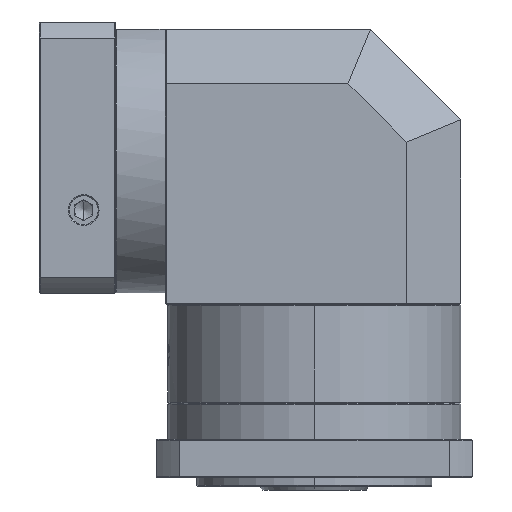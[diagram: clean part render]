
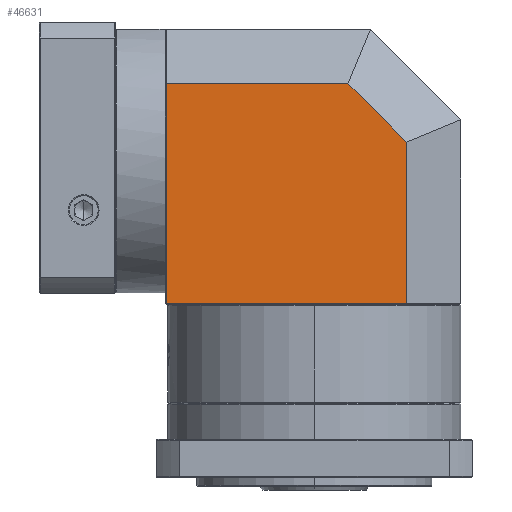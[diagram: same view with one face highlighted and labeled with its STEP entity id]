
A CAD part, left-side view. The second image highlights one B-rep face of the part: STEP entity #46631.
In plain terms, the highlighted planar face has unit normal (-1, 0, 0).
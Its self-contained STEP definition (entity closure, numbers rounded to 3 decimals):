
#117 = VECTOR ( 'NONE', #13070, 1000. ) ;
#1790 = AXIS2_PLACEMENT_3D ( 'NONE', #94318, #33925, #13625 ) ;
#3924 = DIRECTION ( 'NONE',  ( 0., 1., 0. ) ) ;
#13070 = DIRECTION ( 'NONE',  ( 0., 0., -1. ) ) ;
#13625 = DIRECTION ( 'NONE',  ( 0., 0., -1. ) ) ;
#14963 = CARTESIAN_POINT ( 'NONE',  ( -112.461, 17.589, -29.488 ) ) ;
#26580 = CARTESIAN_POINT ( 'NONE',  ( -112.461, 17.589, -118.762 ) ) ;
#31080 = LINE ( 'NONE', #85092, #68927 ) ;
#33925 = DIRECTION ( 'NONE',  ( -1., 0., 0. ) ) ;
#37858 = DIRECTION ( 'NONE',  ( 0., 1., 0. ) ) ;
#44449 = CARTESIAN_POINT ( 'NONE',  ( -112.461, 17.589, -43.162 ) ) ;
#46631 = ADVANCED_FACE ( 'NONE', ( #74987 ), #111112, .T. ) ;
#52588 = VECTOR ( 'NONE', #3924, 1000. ) ;
#56576 = VERTEX_POINT ( 'NONE', #109973 ) ;
#57858 = EDGE_CURVE ( 'NONE', #56576, #91560, #89488, .T. ) ;
#60229 = CARTESIAN_POINT ( 'NONE',  ( -112.461, 150.589, -43.162 ) ) ;
#61632 = VERTEX_POINT ( 'NONE', #26580 ) ;
#62337 = EDGE_LOOP ( 'NONE', ( #72814, #104753, #93554, #77146, #82964 ) ) ;
#63680 = VERTEX_POINT ( 'NONE', #14963 ) ;
#68927 = VECTOR ( 'NONE', #124237, 1000. ) ;
#70822 = VERTEX_POINT ( 'NONE', #75561 ) ;
#71919 = LINE ( 'NONE', #76646, #125518 ) ;
#72814 = ORIENTED_EDGE ( 'NONE', *, *, #57858, .T. ) ;
#74987 = FACE_OUTER_BOUND ( 'NONE', #62337, .T. ) ;
#75561 = CARTESIAN_POINT ( 'NONE',  ( -112.461, 50.015, 2.938 ) ) ;
#76646 = CARTESIAN_POINT ( 'NONE',  ( -112.461, 69.339, 2.938 ) ) ;
#77146 = ORIENTED_EDGE ( 'NONE', *, *, #115391, .T. ) ;
#80639 = LINE ( 'NONE', #44449, #117 ) ;
#82964 = ORIENTED_EDGE ( 'NONE', *, *, #87958, .T. ) ;
#83797 = CARTESIAN_POINT ( 'NONE',  ( -112.461, 69.339, -118.762 ) ) ;
#85092 = CARTESIAN_POINT ( 'NONE',  ( -112.461, 17.589, -29.488 ) ) ;
#86292 = VECTOR ( 'NONE', #130200, 1000. ) ;
#87958 = EDGE_CURVE ( 'NONE', #70822, #56576, #71919, .T. ) ;
#89488 = LINE ( 'NONE', #60229, #86292 ) ;
#91560 = VERTEX_POINT ( 'NONE', #113050 ) ;
#93554 = ORIENTED_EDGE ( 'NONE', *, *, #117434, .F. ) ;
#94318 = CARTESIAN_POINT ( 'NONE',  ( -112.461, 69.339, -43.162 ) ) ;
#104753 = ORIENTED_EDGE ( 'NONE', *, *, #127173, .F. ) ;
#109297 = LINE ( 'NONE', #83797, #52588 ) ;
#109973 = CARTESIAN_POINT ( 'NONE',  ( -112.461, 150.589, 2.938 ) ) ;
#111112 = PLANE ( 'NONE',  #1790 ) ;
#113050 = CARTESIAN_POINT ( 'NONE',  ( -112.461, 150.589, -118.762 ) ) ;
#115391 = EDGE_CURVE ( 'NONE', #63680, #70822, #31080, .T. ) ;
#117434 = EDGE_CURVE ( 'NONE', #63680, #61632, #80639, .T. ) ;
#124237 = DIRECTION ( 'NONE',  ( 0., 0.707, 0.707 ) ) ;
#125518 = VECTOR ( 'NONE', #37858, 1000. ) ;
#127173 = EDGE_CURVE ( 'NONE', #61632, #91560, #109297, .T. ) ;
#130200 = DIRECTION ( 'NONE',  ( 0., 0., -1. ) ) ;
